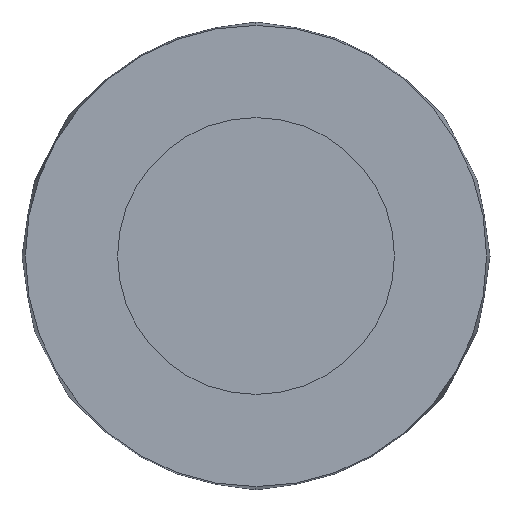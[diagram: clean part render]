
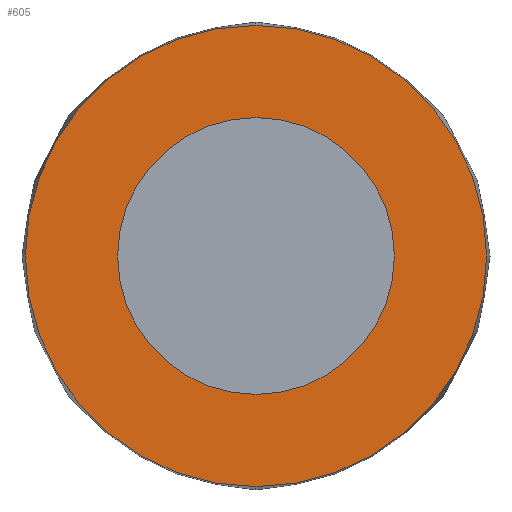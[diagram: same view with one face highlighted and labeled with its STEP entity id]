
A CAD part, front view. The second image highlights one B-rep face of the part: STEP entity #605.
In plain terms, the highlighted planar face has unit normal (0, -1, 0).
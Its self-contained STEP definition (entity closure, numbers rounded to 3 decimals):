
#1 = CARTESIAN_POINT ( 'NONE',  ( 0., 3.952, 19.256 ) ) ;
#15 = AXIS2_PLACEMENT_3D ( 'NONE', #399, #273, #665 ) ;
#36 = DIRECTION ( 'NONE',  ( 0., 0., 1. ) ) ;
#68 = VERTEX_POINT ( 'NONE', #536 ) ;
#148 = VERTEX_POINT ( 'NONE', #625 ) ;
#152 = CARTESIAN_POINT ( 'NONE',  ( 0., 3.952, 14.256 ) ) ;
#168 = CARTESIAN_POINT ( 'NONE',  ( 0., 3.952, 14.256 ) ) ;
#186 = VERTEX_POINT ( 'NONE', #1 ) ;
#197 = DIRECTION ( 'NONE',  ( 0., 0., 1. ) ) ;
#201 = CARTESIAN_POINT ( 'NONE',  ( 0., 3.952, 9.256 ) ) ;
#213 = DIRECTION ( 'NONE',  ( 0., 0., 1. ) ) ;
#220 = CARTESIAN_POINT ( 'NONE',  ( 0., 3.952, 14.256 ) ) ;
#224 = PLANE ( 'NONE',  #15 ) ;
#230 = ORIENTED_EDGE ( 'NONE', *, *, #550, .F. ) ;
#270 = DIRECTION ( 'NONE',  ( 0., 0., 1. ) ) ;
#273 = DIRECTION ( 'NONE',  ( 0., 1., 0. ) ) ;
#274 = EDGE_CURVE ( 'NONE', #148, #68, #509, .T. ) ;
#284 = ORIENTED_EDGE ( 'NONE', *, *, #274, .F. ) ;
#308 = EDGE_LOOP ( 'NONE', ( #674, #284 ) ) ;
#331 = VERTEX_POINT ( 'NONE', #201 ) ;
#337 = AXIS2_PLACEMENT_3D ( 'NONE', #168, #569, #213 ) ;
#350 = DIRECTION ( 'NONE',  ( 0., 1., 0. ) ) ;
#399 = CARTESIAN_POINT ( 'NONE',  ( 0., 3.952, 14.256 ) ) ;
#403 = EDGE_CURVE ( 'NONE', #186, #331, #499, .T. ) ;
#416 = AXIS2_PLACEMENT_3D ( 'NONE', #220, #619, #270 ) ;
#422 = CIRCLE ( 'NONE', #604, 10. ) ;
#434 = FACE_OUTER_BOUND ( 'NONE', #308, .T. ) ;
#438 = FACE_BOUND ( 'NONE', #583, .T. ) ;
#457 = CIRCLE ( 'NONE', #416, 5. ) ;
#472 = ORIENTED_EDGE ( 'NONE', *, *, #403, .F. ) ;
#499 = CIRCLE ( 'NONE', #337, 5. ) ;
#509 = CIRCLE ( 'NONE', #525, 10. ) ;
#525 = AXIS2_PLACEMENT_3D ( 'NONE', #152, #554, #197 ) ;
#536 = CARTESIAN_POINT ( 'NONE',  ( 0., 3.952, 4.256 ) ) ;
#550 = EDGE_CURVE ( 'NONE', #331, #186, #457, .T. ) ;
#554 = DIRECTION ( 'NONE',  ( 0., 1., 0. ) ) ;
#569 = DIRECTION ( 'NONE',  ( 0., -1., 0. ) ) ;
#583 = EDGE_LOOP ( 'NONE', ( #472, #230 ) ) ;
#604 = AXIS2_PLACEMENT_3D ( 'NONE', #673, #350, #36 ) ;
#605 = ADVANCED_FACE ( 'NONE', ( #434, #438 ), #224, .F. ) ;
#619 = DIRECTION ( 'NONE',  ( 0., -1., 0. ) ) ;
#625 = CARTESIAN_POINT ( 'NONE',  ( 0., 3.952, 24.256 ) ) ;
#644 = EDGE_CURVE ( 'NONE', #68, #148, #422, .T. ) ;
#665 = DIRECTION ( 'NONE',  ( 0., 0., 1. ) ) ;
#673 = CARTESIAN_POINT ( 'NONE',  ( 0., 3.952, 14.256 ) ) ;
#674 = ORIENTED_EDGE ( 'NONE', *, *, #644, .F. ) ;
